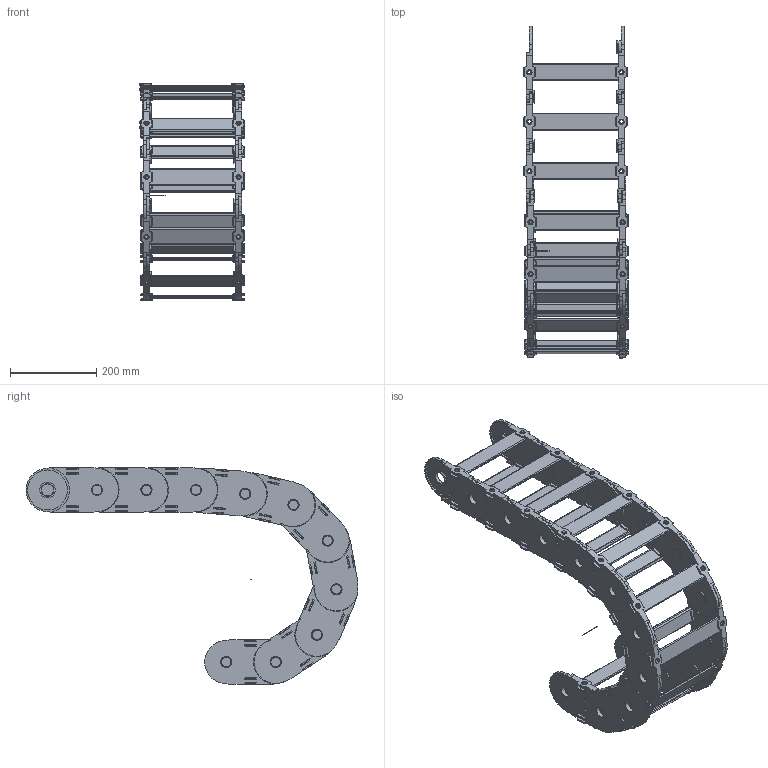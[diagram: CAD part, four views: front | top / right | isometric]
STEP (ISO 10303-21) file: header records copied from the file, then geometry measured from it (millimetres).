
FILE_DESCRIPTION((''),'2;1');
FILE_NAME('C:\Uebbing\TRACE PARTS\PKK\PKK 521\PKK 521 vereinfacht.stp','2013-06-10T14:19:10',('Uebbing'),(''),'Autodesk Inventor 10','Autodesk Inventor 10','');
FILE_SCHEMA(('AUTOMOTIVE_DESIGN { 1 0 10303 214 1 1 1 1 }'));
Length unit declared in the file: millimetre
Products named in the file (3): PKK 521 vereinfacht; Achse; PKK 520 Glied vereinfacht
Assembly tree (11 placements, depth 2):
  PKK 521 vereinfacht
    Achse
    PKK 520 Glied vereinfacht  x10
Bounding box: 242.56 x 771.39 x 504 mm (x, y, z)
Volume: 3583681.9 mm3; surface area: 1454372.3 mm2
Topology: 11 solids, 11 shells, 3643 faces, 9144 edges, 5643 vertices
Faces by surface type: cylinder 1601, plane 822, torus 720, bspline 500
Full cylindrical faces by diameter (mm): 1 x1, 8 x20, 24 x20, 30 x40, 37 x40, 93 x40
Entity records: 11239 total; most frequent: CARTESIAN_POINT 2279, DIRECTION 1988, ORIENTED_EDGE 1764, EDGE_CURVE 882, AXIS2_PLACEMENT_3D 775, VERTEX_POINT 560, VECTOR 438, LINE 438
